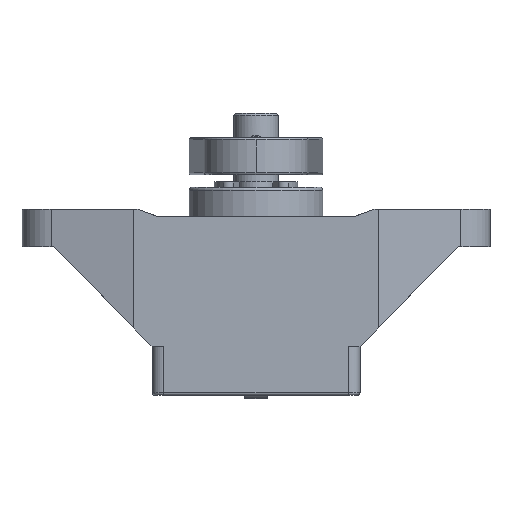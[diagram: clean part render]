
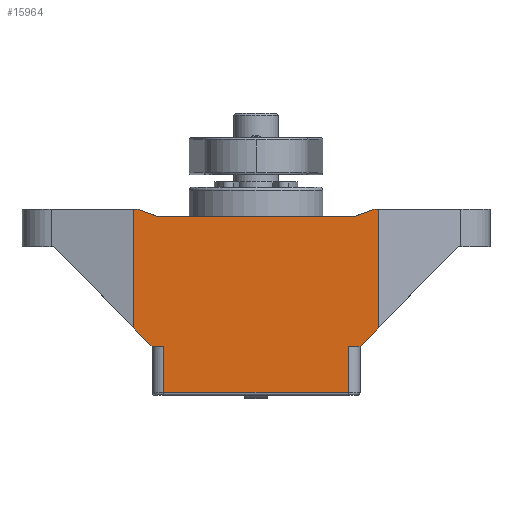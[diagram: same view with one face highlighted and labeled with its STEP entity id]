
A CAD part, front view. The second image highlights one B-rep face of the part: STEP entity #15964.
In plain terms, the highlighted planar face has unit normal (0, -1, 0).
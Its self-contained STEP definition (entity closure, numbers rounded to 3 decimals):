
#32 = EDGE_CURVE ( 'NONE', #4346, #24260, #9725, .T. ) ;
#79 = CARTESIAN_POINT ( 'NONE',  ( -12.4, -13., -27.7 ) ) ;
#350 = LINE ( 'NONE', #27678, #16302 ) ;
#490 = CARTESIAN_POINT ( 'NONE',  ( 16.5, -13., -18.943 ) ) ;
#578 = LINE ( 'NONE', #22156, #16400 ) ;
#1730 = ORIENTED_EDGE ( 'NONE', *, *, #3709, .F. ) ;
#2039 = DIRECTION ( 'NONE',  ( 0., -1., 0. ) ) ;
#2320 = LINE ( 'NONE', #10858, #10950 ) ;
#2433 = EDGE_CURVE ( 'NONE', #15177, #6471, #15116, .T. ) ;
#2483 = ORIENTED_EDGE ( 'NONE', *, *, #17105, .F. ) ;
#2666 = VECTOR ( 'NONE', #4030, 1000. ) ;
#2844 = VECTOR ( 'NONE', #21773, 1000. ) ;
#2909 = VERTEX_POINT ( 'NONE', #11152 ) ;
#3036 = CARTESIAN_POINT ( 'NONE',  ( -16.5, -13., -18.943 ) ) ;
#3566 = CARTESIAN_POINT ( 'NONE',  ( 12.4, -13., -27.7 ) ) ;
#3709 = EDGE_CURVE ( 'NONE', #25653, #25522, #19100, .T. ) ;
#3887 = CARTESIAN_POINT ( 'NONE',  ( -14., -13., -21.5 ) ) ;
#4030 = DIRECTION ( 'NONE',  ( -0.699, 0., 0.715 ) ) ;
#4346 = VERTEX_POINT ( 'NONE', #79 ) ;
#4619 = ORIENTED_EDGE ( 'NONE', *, *, #19845, .T. ) ;
#5593 = VECTOR ( 'NONE', #9831, 1000. ) ;
#6132 = CARTESIAN_POINT ( 'NONE',  ( -15.883, -13., -3. ) ) ;
#6309 = LINE ( 'NONE', #16947, #18224 ) ;
#6374 = FACE_OUTER_BOUND ( 'NONE', #25080, .T. ) ;
#6471 = VERTEX_POINT ( 'NONE', #3887 ) ;
#6500 = CARTESIAN_POINT ( 'NONE',  ( -8.9, -13., -4. ) ) ;
#6838 = ORIENTED_EDGE ( 'NONE', *, *, #16829, .F. ) ;
#6943 = ORIENTED_EDGE ( 'NONE', *, *, #13750, .F. ) ;
#7538 = DIRECTION ( 'NONE',  ( 1., 0., 0. ) ) ;
#7593 = VECTOR ( 'NONE', #12224, 1000. ) ;
#7749 = VECTOR ( 'NONE', #16489, 1000. ) ;
#8359 = LINE ( 'NONE', #12271, #10087 ) ;
#8429 = EDGE_CURVE ( 'NONE', #25653, #14713, #13763, .T. ) ;
#9070 = EDGE_CURVE ( 'NONE', #19850, #20698, #16767, .T. ) ;
#9160 = VERTEX_POINT ( 'NONE', #11141 ) ;
#9725 = LINE ( 'NONE', #3566, #25296 ) ;
#9831 = DIRECTION ( 'NONE',  ( 0., 0., -1. ) ) ;
#10087 = VECTOR ( 'NONE', #20710, 1000. ) ;
#10467 = CARTESIAN_POINT ( 'NONE',  ( -14., -13., -21.5 ) ) ;
#10511 = CARTESIAN_POINT ( 'NONE',  ( -12.4, -13., -21.5 ) ) ;
#10712 = DIRECTION ( 'NONE',  ( 1., 0., 0. ) ) ;
#10858 = CARTESIAN_POINT ( 'NONE',  ( 15.883, -13., -3. ) ) ;
#10950 = VECTOR ( 'NONE', #19424, 1000. ) ;
#11141 = CARTESIAN_POINT ( 'NONE',  ( 13.136, -13., -4. ) ) ;
#11152 = CARTESIAN_POINT ( 'NONE',  ( -16.5, -13., -3. ) ) ;
#11800 = CARTESIAN_POINT ( 'NONE',  ( 16.5, -13., -8. ) ) ;
#12121 = ORIENTED_EDGE ( 'NONE', *, *, #15933, .F. ) ;
#12224 = DIRECTION ( 'NONE',  ( -0.699, 0., -0.715 ) ) ;
#12271 = CARTESIAN_POINT ( 'NONE',  ( -16.5, -13., -8. ) ) ;
#12482 = CARTESIAN_POINT ( 'NONE',  ( 12.4, -13., -21.5 ) ) ;
#12674 = ORIENTED_EDGE ( 'NONE', *, *, #17328, .F. ) ;
#12940 = PLANE ( 'NONE',  #13596 ) ;
#12942 = ORIENTED_EDGE ( 'NONE', *, *, #8429, .T. ) ;
#13064 = LINE ( 'NONE', #6500, #2844 ) ;
#13075 = CARTESIAN_POINT ( 'NONE',  ( -14., -13., -28. ) ) ;
#13596 = AXIS2_PLACEMENT_3D ( 'NONE', #13075, #2039, #25712 ) ;
#13750 = EDGE_CURVE ( 'NONE', #20698, #9160, #13064, .T. ) ;
#13763 = LINE ( 'NONE', #11800, #21624 ) ;
#13890 = LINE ( 'NONE', #22451, #5593 ) ;
#14176 = ORIENTED_EDGE ( 'NONE', *, *, #32, .T. ) ;
#14527 = LINE ( 'NONE', #10467, #2666 ) ;
#14713 = VERTEX_POINT ( 'NONE', #24143 ) ;
#14973 = CARTESIAN_POINT ( 'NONE',  ( -15.883, -13., -3. ) ) ;
#15116 = LINE ( 'NONE', #25783, #16047 ) ;
#15177 = VERTEX_POINT ( 'NONE', #10511 ) ;
#15933 = EDGE_CURVE ( 'NONE', #2909, #19850, #350, .T. ) ;
#15964 = ADVANCED_FACE ( 'NONE', ( #6374 ), #12940, .T. ) ;
#16047 = VECTOR ( 'NONE', #26955, 1000. ) ;
#16302 = VECTOR ( 'NONE', #10712, 1000. ) ;
#16400 = VECTOR ( 'NONE', #19787, 1000. ) ;
#16489 = DIRECTION ( 'NONE',  ( 0.94, 0., -0.342 ) ) ;
#16767 = LINE ( 'NONE', #6132, #7749 ) ;
#16829 = EDGE_CURVE ( 'NONE', #23190, #24260, #13890, .T. ) ;
#16947 = CARTESIAN_POINT ( 'NONE',  ( -12.4, -13., -19.237 ) ) ;
#17105 = EDGE_CURVE ( 'NONE', #24381, #2909, #8359, .T. ) ;
#17328 = EDGE_CURVE ( 'NONE', #9160, #22466, #2320, .T. ) ;
#18224 = VECTOR ( 'NONE', #19335, 1000. ) ;
#18695 = EDGE_CURVE ( 'NONE', #25522, #23190, #578, .T. ) ;
#18991 = CARTESIAN_POINT ( 'NONE',  ( 14., -13., -21.5 ) ) ;
#19100 = LINE ( 'NONE', #23029, #7593 ) ;
#19295 = CARTESIAN_POINT ( 'NONE',  ( 12.4, -13., -27.7 ) ) ;
#19335 = DIRECTION ( 'NONE',  ( 0., 0., -1. ) ) ;
#19424 = DIRECTION ( 'NONE',  ( 0.94, 0., 0.342 ) ) ;
#19787 = DIRECTION ( 'NONE',  ( -1., 0., 0. ) ) ;
#19845 = EDGE_CURVE ( 'NONE', #15177, #4346, #6309, .T. ) ;
#19850 = VERTEX_POINT ( 'NONE', #14973 ) ;
#20140 = EDGE_CURVE ( 'NONE', #22466, #14713, #22263, .T. ) ;
#20376 = DIRECTION ( 'NONE',  ( 0., 0., 1. ) ) ;
#20698 = VERTEX_POINT ( 'NONE', #27075 ) ;
#20710 = DIRECTION ( 'NONE',  ( 0., 0., 1. ) ) ;
#21261 = CARTESIAN_POINT ( 'NONE',  ( 15.883, -13., -3. ) ) ;
#21624 = VECTOR ( 'NONE', #20376, 1000. ) ;
#21717 = ORIENTED_EDGE ( 'NONE', *, *, #20140, .F. ) ;
#21773 = DIRECTION ( 'NONE',  ( 1., 0., 0. ) ) ;
#22156 = CARTESIAN_POINT ( 'NONE',  ( 14., -13., -21.5 ) ) ;
#22263 = LINE ( 'NONE', #24505, #22700 ) ;
#22451 = CARTESIAN_POINT ( 'NONE',  ( 12.4, -13., -19.237 ) ) ;
#22466 = VERTEX_POINT ( 'NONE', #21261 ) ;
#22700 = VECTOR ( 'NONE', #7538, 1000. ) ;
#23029 = CARTESIAN_POINT ( 'NONE',  ( 14., -13., -21.5 ) ) ;
#23190 = VERTEX_POINT ( 'NONE', #12482 ) ;
#24041 = EDGE_CURVE ( 'NONE', #6471, #24381, #14527, .T. ) ;
#24143 = CARTESIAN_POINT ( 'NONE',  ( 16.5, -13., -3. ) ) ;
#24148 = ORIENTED_EDGE ( 'NONE', *, *, #2433, .F. ) ;
#24158 = ORIENTED_EDGE ( 'NONE', *, *, #18695, .F. ) ;
#24260 = VERTEX_POINT ( 'NONE', #19295 ) ;
#24381 = VERTEX_POINT ( 'NONE', #3036 ) ;
#24433 = ORIENTED_EDGE ( 'NONE', *, *, #9070, .F. ) ;
#24505 = CARTESIAN_POINT ( 'NONE',  ( 14., -13., -3. ) ) ;
#24820 = ORIENTED_EDGE ( 'NONE', *, *, #24041, .F. ) ;
#25080 = EDGE_LOOP ( 'NONE', ( #4619, #14176, #6838, #24158, #1730, #12942, #21717, #12674, #6943, #24433, #12121, #2483, #24820, #24148 ) ) ;
#25296 = VECTOR ( 'NONE', #26828, 1000. ) ;
#25522 = VERTEX_POINT ( 'NONE', #18991 ) ;
#25653 = VERTEX_POINT ( 'NONE', #490 ) ;
#25712 = DIRECTION ( 'NONE',  ( 0., 0., -1. ) ) ;
#25783 = CARTESIAN_POINT ( 'NONE',  ( -14., -13., -21.5 ) ) ;
#26828 = DIRECTION ( 'NONE',  ( 1., 0., 0. ) ) ;
#26955 = DIRECTION ( 'NONE',  ( -1., 0., 0. ) ) ;
#27075 = CARTESIAN_POINT ( 'NONE',  ( -13.136, -13., -4. ) ) ;
#27678 = CARTESIAN_POINT ( 'NONE',  ( -14., -13., -3. ) ) ;
